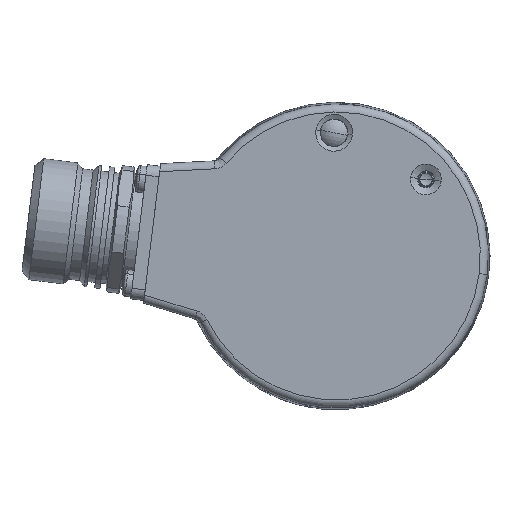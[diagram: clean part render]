
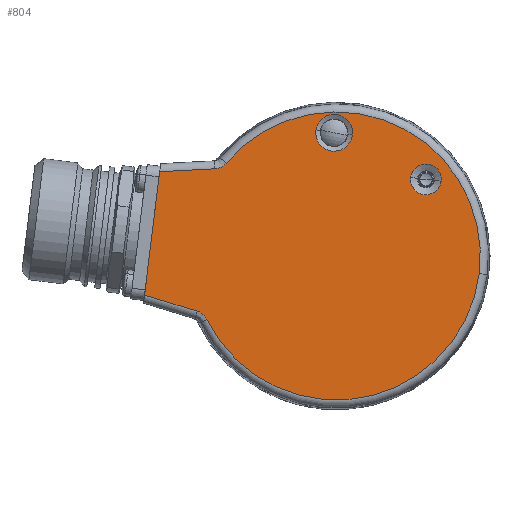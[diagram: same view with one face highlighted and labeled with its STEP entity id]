
A CAD part, left-side view. The second image highlights one B-rep face of the part: STEP entity #804.
In plain terms, the highlighted planar face has unit normal (-1, 0, 0).
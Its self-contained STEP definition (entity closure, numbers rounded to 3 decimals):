
#803 = EDGE_CURVE ( 'NONE', #849, #913, #6113, .T. ) ;
#804 = ADVANCED_FACE ( 'NONE', ( #6108, #6107, #6106 ), #6043, .F. ) ;
#805 = EDGE_LOOP ( 'NONE', ( #806, #807 ) ) ;
#806 = ORIENTED_EDGE ( 'NONE', *, *, #912, .T. ) ;
#807 = ORIENTED_EDGE ( 'NONE', *, *, #803, .T. ) ;
#814 = EDGE_CURVE ( 'NONE', #854, #944, #6063, .T. ) ;
#849 = VERTEX_POINT ( 'NONE', #6280 ) ;
#854 = VERTEX_POINT ( 'NONE', #6320 ) ;
#865 = VERTEX_POINT ( 'NONE', #6236 ) ;
#869 = VERTEX_POINT ( 'NONE', #6234 ) ;
#871 = EDGE_CURVE ( 'NONE', #854, #869, #6233, .T. ) ;
#877 = VERTEX_POINT ( 'NONE', #6331 ) ;
#886 = EDGE_CURVE ( 'NONE', #865, #922, #6256, .T. ) ;
#912 = EDGE_CURVE ( 'NONE', #913, #849, #6397, .T. ) ;
#913 = VERTEX_POINT ( 'NONE', #6392 ) ;
#921 = EDGE_CURVE ( 'NONE', #922, #865, #6537, .T. ) ;
#922 = VERTEX_POINT ( 'NONE', #6532 ) ;
#942 = EDGE_CURVE ( 'NONE', #943, #944, #6359, .T. ) ;
#943 = VERTEX_POINT ( 'NONE', #6351 ) ;
#944 = VERTEX_POINT ( 'NONE', #6350 ) ;
#965 = VERTEX_POINT ( 'NONE', #6674 ) ;
#967 = EDGE_CURVE ( 'NONE', #877, #965, #6672, .T. ) ;
#1073 = EDGE_CURVE ( 'NONE', #1082, #965, #7018, .T. ) ;
#1075 = EDGE_CURVE ( 'NONE', #1082, #943, #7015, .T. ) ;
#1077 = EDGE_LOOP ( 'NONE', ( #1078, #1079 ) ) ;
#1078 = ORIENTED_EDGE ( 'NONE', *, *, #921, .T. ) ;
#1079 = ORIENTED_EDGE ( 'NONE', *, *, #886, .T. ) ;
#1080 = EDGE_LOOP ( 'NONE', ( #2378, #1277, #1343, #1274, #1275, #1342, #1099 ) ) ;
#1082 = VERTEX_POINT ( 'NONE', #7021 ) ;
#1099 = ORIENTED_EDGE ( 'NONE', *, *, #942, .T. ) ;
#1274 = ORIENTED_EDGE ( 'NONE', *, *, #967, .T. ) ;
#1275 = ORIENTED_EDGE ( 'NONE', *, *, #1073, .F. ) ;
#1276 = EDGE_CURVE ( 'NONE', #877, #869, #7758, .T. ) ;
#1277 = ORIENTED_EDGE ( 'NONE', *, *, #871, .T. ) ;
#1342 = ORIENTED_EDGE ( 'NONE', *, *, #1075, .T. ) ;
#1343 = ORIENTED_EDGE ( 'NONE', *, *, #1276, .F. ) ;
#2378 = ORIENTED_EDGE ( 'NONE', *, *, #814, .F. ) ;
#6037 = DIRECTION ( 'NONE',  ( 0., -0.993, -0.122 ) ) ;
#6038 = DIRECTION ( 'NONE',  ( 1., 0., 0. ) ) ;
#6039 = CARTESIAN_POINT ( 'NONE',  ( -19., 0., 0. ) ) ;
#6040 = AXIS2_PLACEMENT_3D ( 'NONE', #6039, #6038, #6037 ) ;
#6043 = PLANE ( 'NONE',  #6040 ) ;
#6063 = B_SPLINE_CURVE_WITH_KNOTS ( 'NONE', 3,
 ( #6102, #6101, #6100, #6099, #6098, #6097, #6096, #6095, #6094, #6093 ),
 .UNSPECIFIED., .F., .F.,
 ( 4, 2, 2, 2, 4 ),
 ( 0., 0.001, 0.001, 0.002, 0.002 ),
 .UNSPECIFIED. ) ;
#6093 = CARTESIAN_POINT ( 'NONE',  ( -19., 20.777, 17.512 ) ) ;
#6094 = CARTESIAN_POINT ( 'NONE',  ( -19., 20.91, 17.355 ) ) ;
#6095 = CARTESIAN_POINT ( 'NONE',  ( -19., 21.056, 17.213 ) ) ;
#6096 = CARTESIAN_POINT ( 'NONE',  ( -19., 21.376, 16.962 ) ) ;
#6097 = CARTESIAN_POINT ( 'NONE',  ( -19., 21.552, 16.851 ) ) ;
#6098 = CARTESIAN_POINT ( 'NONE',  ( -19., 21.917, 16.669 ) ) ;
#6099 = CARTESIAN_POINT ( 'NONE',  ( -19., 22.108, 16.597 ) ) ;
#6100 = CARTESIAN_POINT ( 'NONE',  ( -19., 22.503, 16.493 ) ) ;
#6101 = CARTESIAN_POINT ( 'NONE',  ( -19., 22.708, 16.461 ) ) ;
#6102 = CARTESIAN_POINT ( 'NONE',  ( -19., 22.914, 16.45 ) ) ;
#6106 = FACE_OUTER_BOUND ( 'NONE', #1080, .T. ) ;
#6107 = FACE_BOUND ( 'NONE', #1077, .T. ) ;
#6108 = FACE_BOUND ( 'NONE', #805, .T. ) ;
#6109 = DIRECTION ( 'NONE',  ( 0., -0.993, -0.122 ) ) ;
#6110 = DIRECTION ( 'NONE',  ( 1., 0., 0. ) ) ;
#6111 = CARTESIAN_POINT ( 'NONE',  ( -19., -16.919, 14.45 ) ) ;
#6112 = AXIS2_PLACEMENT_3D ( 'NONE', #6111, #6110, #6109 ) ;
#6113 = CIRCLE ( 'NONE', #6112, 2.899 ) ;
#6224 = DIRECTION ( 'NONE',  ( 0., 0.999, -0.052 ) ) ;
#6225 = VECTOR ( 'NONE', #6224, 1000. ) ;
#6226 = CARTESIAN_POINT ( 'NONE',  ( -19., 33.046, 15.919 ) ) ;
#6233 = LINE ( 'NONE', #6226, #6225 ) ;
#6234 = CARTESIAN_POINT ( 'NONE',  ( -19., 33.31, 15.905 ) ) ;
#6236 = CARTESIAN_POINT ( 'NONE',  ( -19., -3.034, 22.824 ) ) ;
#6252 = DIRECTION ( 'NONE',  ( 0., -0.993, -0.122 ) ) ;
#6253 = DIRECTION ( 'NONE',  ( 1., 0., 0. ) ) ;
#6254 = CARTESIAN_POINT ( 'NONE',  ( -19., 0.406, 23.246 ) ) ;
#6255 = AXIS2_PLACEMENT_3D ( 'NONE', #6254, #6253, #6252 ) ;
#6256 = CIRCLE ( 'NONE', #6255, 3.466 ) ;
#6280 = CARTESIAN_POINT ( 'NONE',  ( -19., -19.796, 14.097 ) ) ;
#6320 = CARTESIAN_POINT ( 'NONE',  ( -19., 22.914, 16.45 ) ) ;
#6331 = CARTESIAN_POINT ( 'NONE',  ( -19., 36.168, -7.374 ) ) ;
#6350 = CARTESIAN_POINT ( 'NONE',  ( -19., 20.777, 17.512 ) ) ;
#6351 = CARTESIAN_POINT ( 'NONE',  ( -19., -26.97, -3.312 ) ) ;
#6352 = DIRECTION ( 'NONE',  ( 0., -0.993, -0.122 ) ) ;
#6353 = DIRECTION ( 'NONE',  ( -1., 0., 0. ) ) ;
#6354 = CARTESIAN_POINT ( 'NONE',  ( -19., 0., 0. ) ) ;
#6355 = AXIS2_PLACEMENT_3D ( 'NONE', #6354, #6353, #6352 ) ;
#6359 = CIRCLE ( 'NONE', #6355, 27.173 ) ;
#6392 = CARTESIAN_POINT ( 'NONE',  ( -19., -14.042, 14.804 ) ) ;
#6393 = DIRECTION ( 'NONE',  ( 0., -0.993, -0.122 ) ) ;
#6394 = DIRECTION ( 'NONE',  ( 1., 0., 0. ) ) ;
#6395 = CARTESIAN_POINT ( 'NONE',  ( -19., -16.919, 14.45 ) ) ;
#6396 = AXIS2_PLACEMENT_3D ( 'NONE', #6395, #6394, #6393 ) ;
#6397 = CIRCLE ( 'NONE', #6396, 2.899 ) ;
#6532 = CARTESIAN_POINT ( 'NONE',  ( -19., 3.846, 23.669 ) ) ;
#6533 = DIRECTION ( 'NONE',  ( 0., -0.993, -0.122 ) ) ;
#6534 = DIRECTION ( 'NONE',  ( 1., 0., 0. ) ) ;
#6535 = CARTESIAN_POINT ( 'NONE',  ( -19., 0.406, 23.246 ) ) ;
#6536 = AXIS2_PLACEMENT_3D ( 'NONE', #6535, #6534, #6533 ) ;
#6537 = CIRCLE ( 'NONE', #6536, 3.466 ) ;
#6589 = DIRECTION ( 'NONE',  ( 0., -0.956, -0.292 ) ) ;
#6670 = VECTOR ( 'NONE', #6589, 1000. ) ;
#6671 = CARTESIAN_POINT ( 'NONE',  ( -19., 25.556, -10.618 ) ) ;
#6672 = LINE ( 'NONE', #6671, #6670 ) ;
#6674 = CARTESIAN_POINT ( 'NONE',  ( -19., 26.213, -10.418 ) ) ;
#7010 = CARTESIAN_POINT ( 'NONE',  ( -19., 24.848, -11.282 ) ) ;
#7011 = CARTESIAN_POINT ( 'NONE',  ( -19., 24.597, -11.605 ) ) ;
#7012 = CARTESIAN_POINT ( 'NONE',  ( -19., 24.487, -11.781 ) ) ;
#7013 = CARTESIAN_POINT ( 'NONE',  ( -19., 24.396, -11.966 ) ) ;
#7014 = AXIS2_PLACEMENT_3D ( 'NONE', #7017, #7023, #7022 ) ;
#7015 = CIRCLE ( 'NONE', #7014, 27.173 ) ;
#7017 = CARTESIAN_POINT ( 'NONE',  ( -19., 0., 0. ) ) ;
#7018 = B_SPLINE_CURVE_WITH_KNOTS ( 'NONE', 3,
 ( #7013, #7012, #7011, #7010, #7029, #7028, #7027, #7026, #7025, #7024 ),
 .UNSPECIFIED., .F., .F.,
 ( 4, 2, 2, 2, 4 ),
 ( 0., 0.001, 0.001, 0.002, 0.002 ),
 .UNSPECIFIED. ) ;
#7021 = CARTESIAN_POINT ( 'NONE',  ( -19., 24.396, -11.966 ) ) ;
#7022 = DIRECTION ( 'NONE',  ( 0., -0.993, -0.122 ) ) ;
#7023 = DIRECTION ( 'NONE',  ( -1., 0., 0. ) ) ;
#7024 = CARTESIAN_POINT ( 'NONE',  ( -19., 26.213, -10.418 ) ) ;
#7025 = CARTESIAN_POINT ( 'NONE',  ( -19., 26.016, -10.478 ) ) ;
#7026 = CARTESIAN_POINT ( 'NONE',  ( -19., 25.828, -10.557 ) ) ;
#7027 = CARTESIAN_POINT ( 'NONE',  ( -19., 25.471, -10.753 ) ) ;
#7028 = CARTESIAN_POINT ( 'NONE',  ( -19., 25.3, -10.87 ) ) ;
#7029 = CARTESIAN_POINT ( 'NONE',  ( -19., 24.989, -11.135 ) ) ;
#7755 = DIRECTION ( 'NONE',  ( 0., -0.122, 0.993 ) ) ;
#7756 = VECTOR ( 'NONE', #7755, 1000. ) ;
#7757 = CARTESIAN_POINT ( 'NONE',  ( -19., 36.354, -8.886 ) ) ;
#7758 = LINE ( 'NONE', #7757, #7756 ) ;
